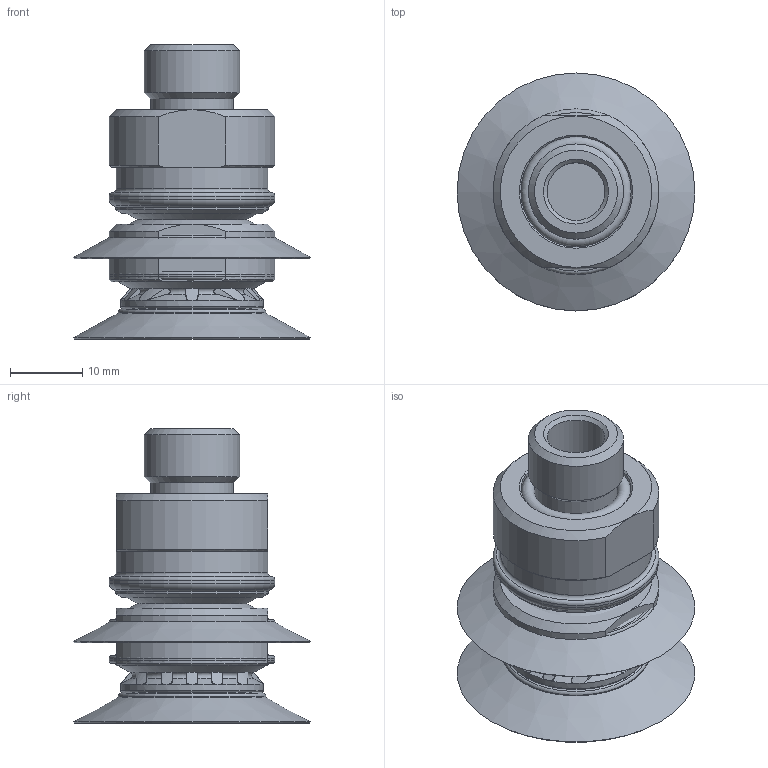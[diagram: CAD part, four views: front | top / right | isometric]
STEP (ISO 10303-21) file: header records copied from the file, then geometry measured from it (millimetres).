
FILE_DESCRIPTION( ( 'Unknown' ), '1' );
FILE_NAME( 'C:/Documents and Settings/Administrator/官帕 拳搁/Magic Cup (Dim)/B2.5/U TYPE/B2.5-20/B2.5-20-U30-N6-D-F2-14M.stp', 'Unknown', ( 'Unknown' ), ( 'Unknown' ), 'XStep 1.0', 'Unknown', ' ' );
FILE_SCHEMA( ( 'automotive_design' ) );
Length unit declared in the file: millimetre
Products named in the file (8): Assem1; Assem2; Assem3; 赤20 STOPPER ; U30(DIM); B2.5-20; 20-14M(DIM); 14M-Oring(DIM)
Bounding box: 33 x 33 x 40.85 mm (x, y, z)
Volume: 22535.3 mm3; surface area: 27740.1 mm2
Topology: 15 solids, 15 shells, 948 faces, 2349 edges, 1458 vertices
Faces by surface type: plane 297, torus 234, cone 210, cylinder 207
Full cylindrical faces by diameter (mm): 8 x3, 9.8 x3, 11.5 x3, 11.9 x6, 13.2 x3, 13.4 x3, 14.475 x3, 15 x6, 15.3 x3, 15.673 x3, 16 x3, 17 x3, 17.5 x3, 18 x3, 19.8 x3, 20.5 x3, 21 x3, 21.18 x3, 23 x9
Entity records: 10967 total; most frequent: CARTESIAN_POINT 2959, ORIENTED_EDGE 1392, DIRECTION 1346, EDGE_CURVE 696, AXIS2_PLACEMENT_3D 615, VERTEX_POINT 482, EDGE_LOOP 414, FACE_OUTER_BOUND 371
